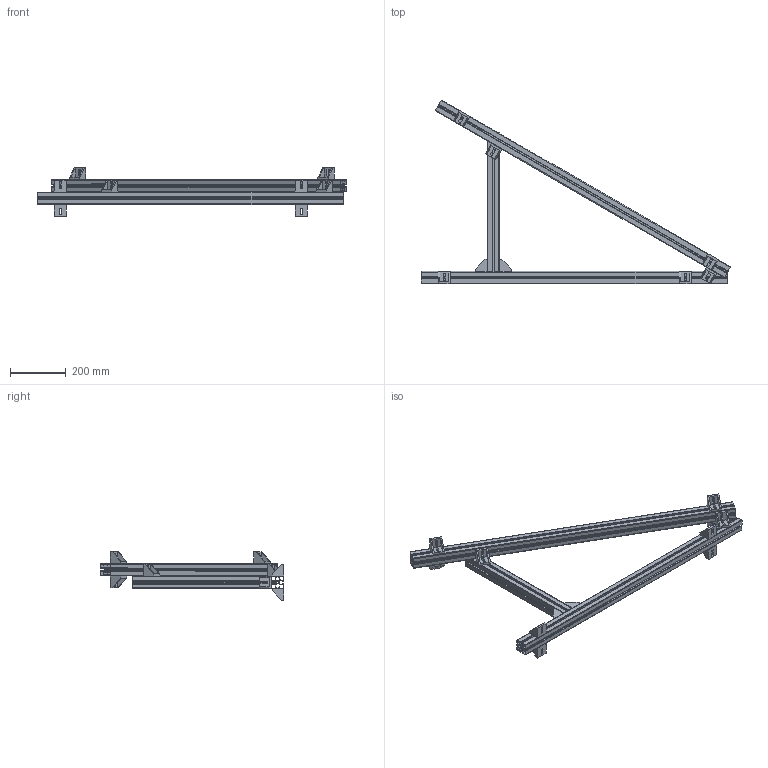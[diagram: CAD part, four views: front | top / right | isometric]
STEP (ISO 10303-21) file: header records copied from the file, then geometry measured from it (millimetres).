
FILE_DESCRIPTION (( 'STEP AP203' ), '1' );
FILE_NAME ('084.106.309.STEP', '2015-05-20T11:41:39', ( '' ), ( '' ), 'SwSTEP 2.0', 'SolidWorks 2012', '' );
FILE_SCHEMA (( 'CONFIG_CONTROL_DESIGN' ));
Length unit declared in the file: millimetre
Products named in the file (1): 084.106.309
Bounding box: 1111.98 x 661.49 x 176 mm (x, y, z)
Volume: 1550862.9 mm3; surface area: 1852603.2 mm2
Topology: 15 solids, 15 shells, 683 faces, 1902 edges, 1248 vertices
Faces by surface type: plane 481, cylinder 202
Entity records: 21970 total; most frequent: CARTESIAN_POINT 3973, ORIENTED_EDGE 3804, DIRECTION 3612, EDGE_CURVE 1902, LINE 1502, VECTOR 1502, VERTEX_POINT 1248, AXIS2_PLACEMENT_3D 1055
